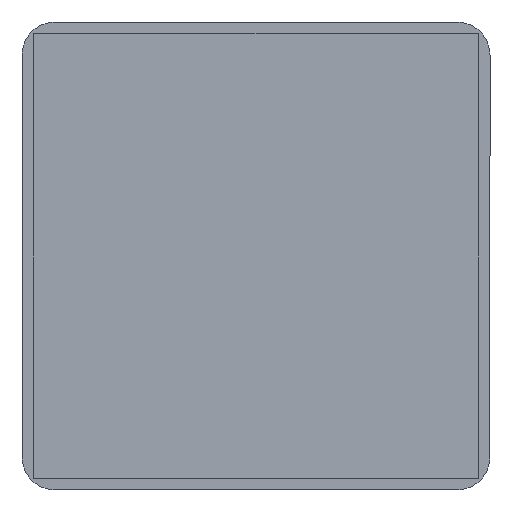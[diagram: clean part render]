
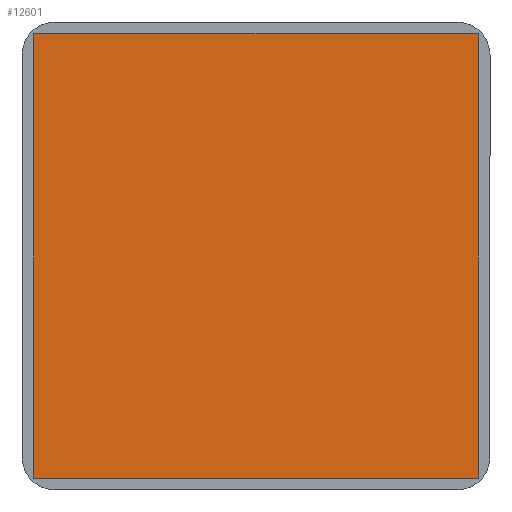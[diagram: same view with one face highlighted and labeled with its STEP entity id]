
A CAD part, front view. The second image highlights one B-rep face of the part: STEP entity #12601.
In plain terms, the highlighted planar face has unit normal (0, -1, 0).
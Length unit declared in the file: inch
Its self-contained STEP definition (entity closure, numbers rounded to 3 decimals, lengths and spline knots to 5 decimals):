
#966 = CARTESIAN_POINT ( 'NONE',  ( 0.7874, -0.005, -0.7874 ) ) ;
#1651 = FACE_OUTER_BOUND ( 'NONE', #18208, .T. ) ;
#2120 = DIRECTION ( 'NONE',  ( 0., 0., 1. ) ) ;
#2239 = EDGE_CURVE ( 'NONE', #19151, #13242, #2790, .T. ) ;
#2609 = CARTESIAN_POINT ( 'NONE',  ( -0.7874, -0.005, -0.7874 ) ) ;
#2727 = VECTOR ( 'NONE', #18738, 39.37008 ) ;
#2744 = ORIENTED_EDGE ( 'NONE', *, *, #6821, .F. ) ;
#2790 = LINE ( 'NONE', #8509, #5875 ) ;
#2941 = ORIENTED_EDGE ( 'NONE', *, *, #2239, .F. ) ;
#3142 = CARTESIAN_POINT ( 'NONE',  ( -0.7874, -0.005, 0.7874 ) ) ;
#3895 = VERTEX_POINT ( 'NONE', #4467 ) ;
#4098 = CARTESIAN_POINT ( 'NONE',  ( -0.7874, -0.005, 0.7874 ) ) ;
#4467 = CARTESIAN_POINT ( 'NONE',  ( -0.7874, -0.005, -0.7874 ) ) ;
#4481 = CARTESIAN_POINT ( 'NONE',  ( 0.7874, -0.005, -0.7874 ) ) ;
#5124 = LINE ( 'NONE', #12647, #2727 ) ;
#5875 = VECTOR ( 'NONE', #8701, 39.37008 ) ;
#6821 = EDGE_CURVE ( 'NONE', #13242, #8491, #11315, .T. ) ;
#6875 = DIRECTION ( 'NONE',  ( 0., 0., -1. ) ) ;
#6889 = AXIS2_PLACEMENT_3D ( 'NONE', #3142, #11912, #2120 ) ;
#8491 = VERTEX_POINT ( 'NONE', #4481 ) ;
#8509 = CARTESIAN_POINT ( 'NONE',  ( -0.7874, -0.005, 0.7874 ) ) ;
#8701 = DIRECTION ( 'NONE',  ( 1., 0., 0. ) ) ;
#8818 = LINE ( 'NONE', #2609, #16618 ) ;
#9163 = CARTESIAN_POINT ( 'NONE',  ( 0.7874, -0.005, 0.7874 ) ) ;
#9762 = VECTOR ( 'NONE', #6875, 39.37008 ) ;
#11315 = LINE ( 'NONE', #966, #9762 ) ;
#11912 = DIRECTION ( 'NONE',  ( 0., 1., 0. ) ) ;
#12601 = ADVANCED_FACE ( 'NONE', ( #1651 ), #15442, .F. ) ;
#12647 = CARTESIAN_POINT ( 'NONE',  ( -0.7874, -0.005, -0.7874 ) ) ;
#13242 = VERTEX_POINT ( 'NONE', #9163 ) ;
#14395 = ORIENTED_EDGE ( 'NONE', *, *, #16083, .F. ) ;
#15442 = PLANE ( 'NONE',  #6889 ) ;
#16083 = EDGE_CURVE ( 'NONE', #3895, #19151, #8818, .T. ) ;
#16618 = VECTOR ( 'NONE', #17750, 39.37008 ) ;
#17750 = DIRECTION ( 'NONE',  ( 0., 0., 1. ) ) ;
#17920 = ORIENTED_EDGE ( 'NONE', *, *, #18350, .F. ) ;
#18208 = EDGE_LOOP ( 'NONE', ( #14395, #17920, #2744, #2941 ) ) ;
#18350 = EDGE_CURVE ( 'NONE', #8491, #3895, #5124, .T. ) ;
#18738 = DIRECTION ( 'NONE',  ( -1., 0., 0. ) ) ;
#19151 = VERTEX_POINT ( 'NONE', #4098 ) ;
